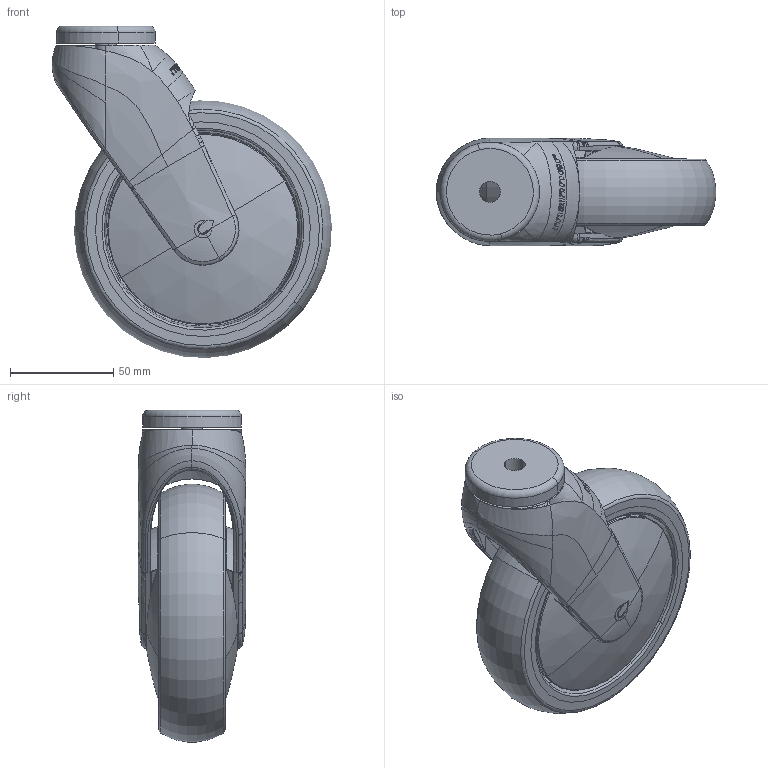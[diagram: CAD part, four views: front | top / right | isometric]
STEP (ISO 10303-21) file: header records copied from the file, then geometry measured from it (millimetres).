
FILE_DESCRIPTION (( 'STEP AP203' ), '1' );
FILE_NAME ('301668.STEP', '2010-03-18T05:38:06', ( ' ' ), ( ' ' ), 'SwSTEP 2.0', 'SolidWorks 2007', '' );
FILE_SCHEMA (( 'CONFIG_CONTROL_DESIGN' ));
Length unit declared in the file: millimetre
Products named in the file (1): 301668
Bounding box: 135.39 x 52.08 x 160.77 mm (x, y, z)
Surface area: 97346.3 mm2 (no closed solid volume)
Topology: 0 solids, 13 shells, 357 faces, 1287 edges, 884 vertices
Faces by surface type: bspline 209, plane 53, torus 38, cylinder 29, cone 22, sphere 6
Entity records: 93057 total; most frequent: CARTESIAN_POINT 84753, ORIENTED_EDGE 2150, EDGE_CURVE 1279, VERTEX_POINT 884, B_SPLINE_CURVE_WITH_KNOTS 861, DIRECTION 840, EDGE_LOOP 383, ADVANCED_FACE 357
